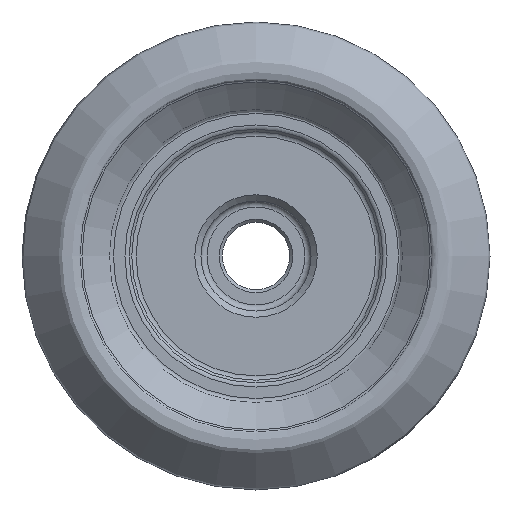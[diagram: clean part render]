
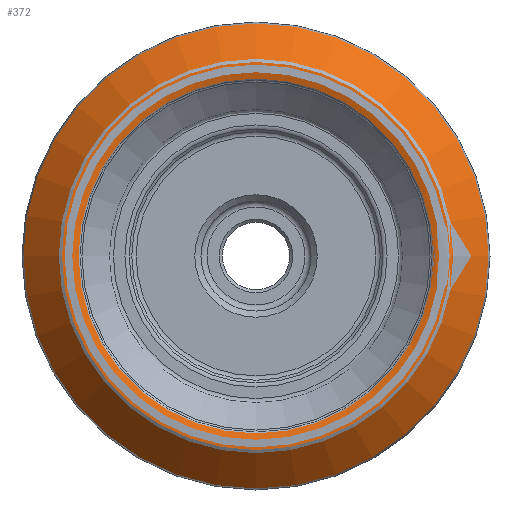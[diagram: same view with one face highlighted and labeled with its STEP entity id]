
A CAD part, left-side view. The second image highlights one B-rep face of the part: STEP entity #372.
In plain terms, the highlighted face is a revolution surface.
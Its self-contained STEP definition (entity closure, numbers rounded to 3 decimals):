
#64=SURFACE_OF_REVOLUTION('',#229,#69);
#69=AXIS1_PLACEMENT('',#1992,#1373);
#74=VERTEX_LOOP('',#845);
#229=B_SPLINE_CURVE_WITH_KNOTS('',3,(#1923,#1924,#1925,#1926,#1927,#1928,
#1929,#1930,#1931,#1932,#1933,#1934,#1935,#1936,#1937,#1938,#1939,#1940,
#1941,#1942,#1943,#1944,#1945,#1946,#1947,#1948,#1949,#1950,#1951,#1952,
#1953,#1954,#1955,#1956,#1957,#1958,#1959,#1960,#1961,#1962,#1963,#1964,
#1965,#1966,#1967,#1968,#1969,#1970,#1971,#1972,#1973,#1974,#1975,#1976,
#1977,#1978,#1979,#1980,#1981,#1982,#1983,#1984,#1985,#1986,#1987,#1988,
#1989,#1990,#1991),.UNSPECIFIED.,.T.,.F.,(2,2,2,2,2,2,2,1,2,2,2,2,2,2,2,
2,2,2,2,2,2,2,2,2,2,2,2,2,2,2,2,2,2,2,2,2,2),(-0.031,0.,0.016,
0.031,0.047,0.062,0.078,
0.094,0.125,0.25,0.266,0.281,0.297,0.313,0.328,
0.344,0.375,0.438,0.5,0.516,0.531,0.547,0.563,0.594,0.625,
0.75,0.766,0.781,0.797,0.813,
0.828,0.844,0.875,0.938,
0.969,1.,1.016),.UNSPECIFIED.);
#308=FACE_BOUND('',#74,.T.);
#372=ADVANCED_FACE('',(#308),#64,.T.);
#845=VERTEX_POINT('',#1922);
#1373=DIRECTION('',(-1.,0.,0.));
#1922=CARTESIAN_POINT('',(0.388,-32.213,0.));
#1923=CARTESIAN_POINT('',(0.745,-32.564,0.));
#1924=CARTESIAN_POINT('',(0.21,-32.037,0.));
#1925=CARTESIAN_POINT('',(0.082,-31.815,0.));
#1926=CARTESIAN_POINT('',(-0.034,-31.334,0.));
#1927=CARTESIAN_POINT('',(-0.013,-31.08,0.));
#1928=CARTESIAN_POINT('',(-0.013,-30.582,0.));
#1929=CARTESIAN_POINT('',(-0.013,-30.334,0.));
#1930=CARTESIAN_POINT('',(-0.014,-29.836,0.));
#1931=CARTESIAN_POINT('',(0.,-29.582,0.));
#1932=CARTESIAN_POINT('',(0.179,-29.119,0.));
#1933=CARTESIAN_POINT('',(0.336,-28.919,0.));
#1934=CARTESIAN_POINT('',(0.658,-28.543,0.));
#1935=CARTESIAN_POINT('',(1.141,-27.98,0.));
#1936=CARTESIAN_POINT('',(1.625,-27.417,0.));
#1937=CARTESIAN_POINT('',(3.238,-25.541,0.));
#1938=CARTESIAN_POINT('',(4.53,-24.042,0.));
#1939=CARTESIAN_POINT('',(5.987,-22.358,0.));
#1940=CARTESIAN_POINT('',(6.159,-22.183,0.));
#1941=CARTESIAN_POINT('',(6.603,-21.96,0.));
#1942=CARTESIAN_POINT('',(6.848,-21.943,0.));
#1943=CARTESIAN_POINT('',(7.338,-21.91,0.));
#1944=CARTESIAN_POINT('',(7.583,-21.894,0.));
#1945=CARTESIAN_POINT('',(8.072,-21.863,0.));
#1946=CARTESIAN_POINT('',(8.326,-21.843,0.));
#1947=CARTESIAN_POINT('',(8.788,-22.007,0.));
#1948=CARTESIAN_POINT('',(8.975,-22.175,0.));
#1949=CARTESIAN_POINT('',(9.31,-22.523,0.));
#1950=CARTESIAN_POINT('',(9.478,-22.698,0.));
#1951=CARTESIAN_POINT('',(9.978,-23.222,0.));
#1952=CARTESIAN_POINT('',(10.311,-23.572,0.));
#1953=CARTESIAN_POINT('',(11.307,-24.626,0.));
#1954=CARTESIAN_POINT('',(11.966,-25.332,0.));
#1955=CARTESIAN_POINT('',(13.281,-26.75,0.));
#1956=CARTESIAN_POINT('',(13.946,-27.451,0.));
#1957=CARTESIAN_POINT('',(14.747,-28.356,0.));
#1958=CARTESIAN_POINT('',(14.863,-28.573,0.));
#1959=CARTESIAN_POINT('',(14.981,-29.035,0.));
#1960=CARTESIAN_POINT('',(14.969,-29.28,0.));
#1961=CARTESIAN_POINT('',(14.969,-29.764,0.));
#1962=CARTESIAN_POINT('',(14.968,-30.005,0.));
#1963=CARTESIAN_POINT('',(14.969,-30.489,0.));
#1964=CARTESIAN_POINT('',(14.977,-30.736,0.));
#1965=CARTESIAN_POINT('',(14.782,-31.429,0.));
#1966=CARTESIAN_POINT('',(14.399,-31.767,0.));
#1967=CARTESIAN_POINT('',(13.755,-32.474,0.));
#1968=CARTESIAN_POINT('',(13.433,-32.828,0.));
#1969=CARTESIAN_POINT('',(11.827,-34.6,0.));
#1970=CARTESIAN_POINT('',(10.548,-36.023,0.));
#1971=CARTESIAN_POINT('',(9.116,-37.63,0.));
#1972=CARTESIAN_POINT('',(8.964,-37.82,0.));
#1973=CARTESIAN_POINT('',(8.576,-38.088,0.));
#1974=CARTESIAN_POINT('',(8.342,-38.17,0.));
#1975=CARTESIAN_POINT('',(7.864,-38.187,0.));
#1976=CARTESIAN_POINT('',(7.625,-38.195,0.));
#1977=CARTESIAN_POINT('',(7.147,-38.213,0.));
#1978=CARTESIAN_POINT('',(6.909,-38.246,0.));
#1979=CARTESIAN_POINT('',(6.429,-38.191,0.));
#1980=CARTESIAN_POINT('',(6.2,-38.085,0.));
#1981=CARTESIAN_POINT('',(5.834,-37.772,0.));
#1982=CARTESIAN_POINT('',(5.676,-37.583,0.));
#1983=CARTESIAN_POINT('',(5.17,-37.057,0.));
#1984=CARTESIAN_POINT('',(4.833,-36.707,0.));
#1985=CARTESIAN_POINT('',(3.817,-35.66,0.));
#1986=CARTESIAN_POINT('',(3.137,-34.965,0.));
#1987=CARTESIAN_POINT('',(2.111,-33.928,0.));
#1988=CARTESIAN_POINT('',(1.768,-33.584,0.));
#1989=CARTESIAN_POINT('',(1.079,-32.896,0.));
#1990=CARTESIAN_POINT('',(0.745,-32.564,0.));
#1991=CARTESIAN_POINT('',(0.21,-32.037,0.));
#1992=CARTESIAN_POINT('',(0.,0.,0.));
